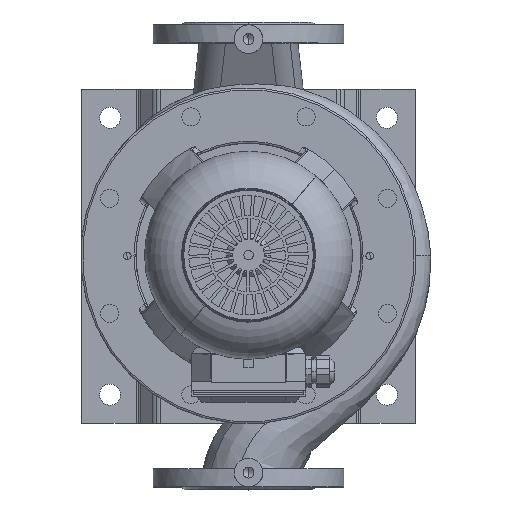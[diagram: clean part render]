
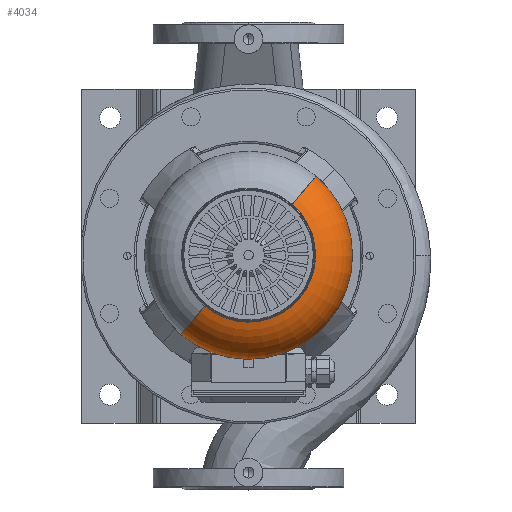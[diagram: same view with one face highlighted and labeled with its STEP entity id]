
A CAD part, top view. The second image highlights one B-rep face of the part: STEP entity #4034.
In plain terms, the highlighted toroidal (fillet/blend) face has major radius 59 mm and minor radius 50 mm.
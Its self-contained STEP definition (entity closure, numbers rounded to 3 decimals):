
#4034=ADVANCED_FACE('NONE',(#9956),#9957,.T.);
#9956=FACE_OUTER_BOUND('',#17525,.T.);
#9957=TOROIDAL_SURFACE('',#17526,59.0,50.0);
#17525=EDGE_LOOP('',(#26421,#26422,#26423,#26424));
#17526=AXIS2_PLACEMENT_3D('',#26425,#26426,#26427);
#26421=ORIENTED_EDGE('',*,*,#36434,.F.);
#26422=ORIENTED_EDGE('',*,*,#36433,.T.);
#26423=ORIENTED_EDGE('',*,*,#36435,.F.);
#26424=ORIENTED_EDGE('',*,*,#36436,.T.);
#26425=CARTESIAN_POINT('',(49.225,0.0,0.0));
#26426=DIRECTION('',(1.0,0.,0.));
#26427=DIRECTION('',(0.,0.,-1.0));
#36433=EDGE_CURVE('NONE',#45797,#45801,#45803,.T.);
#36434=EDGE_CURVE('',#45797,#45804,#45805,.T.);
#36435=EDGE_CURVE('',#45806,#45801,#45807,.T.);
#36436=EDGE_CURVE('NONE',#45806,#45804,#45808,.T.);
#45797=VERTEX_POINT('',#61130);
#45801=VERTEX_POINT('NONE',#61135);
#45803=CIRCLE('',#61138,109.);
#45804=VERTEX_POINT('NONE',#61139);
#45805=CIRCLE('',#61140,50.0);
#45806=VERTEX_POINT('',#61141);
#45807=CIRCLE('',#61142,50.0);
#45808=CIRCLE('',#61143,70.229);
#61130=CARTESIAN_POINT('',(49.225,0.,-109.));
#61135=CARTESIAN_POINT('',(49.225,0.,109.0));
#61138=AXIS2_PLACEMENT_3D('',#69066,#69067,#69068);
#61139=CARTESIAN_POINT('',(97.948,0.,-70.229));
#61140=AXIS2_PLACEMENT_3D('',#69069,#69070,#69071);
#61141=CARTESIAN_POINT('',(97.948,0.,70.229));
#61142=AXIS2_PLACEMENT_3D('',#69072,#69073,#69074);
#61143=AXIS2_PLACEMENT_3D('',#69075,#69076,#69077);
#69066=CARTESIAN_POINT('',(49.225,0.0,0.0));
#69067=DIRECTION('',(1.0,0.,0.));
#69068=DIRECTION('',(0.,0.,-1.0));
#69069=CARTESIAN_POINT('',(49.225,0.,-59.0));
#69070=DIRECTION('',(0.,-1.0,0.));
#69071=DIRECTION('',(0.,0.,-1.0));
#69072=CARTESIAN_POINT('',(49.225,0.,59.0));
#69073=DIRECTION('',(0.,-1.0,0.));
#69074=DIRECTION('',(0.,0.,1.0));
#69075=CARTESIAN_POINT('',(97.948,0.0,0.0));
#69076=DIRECTION('',(-1.0,0.,0.));
#69077=DIRECTION('',(0.,0.,1.0));
